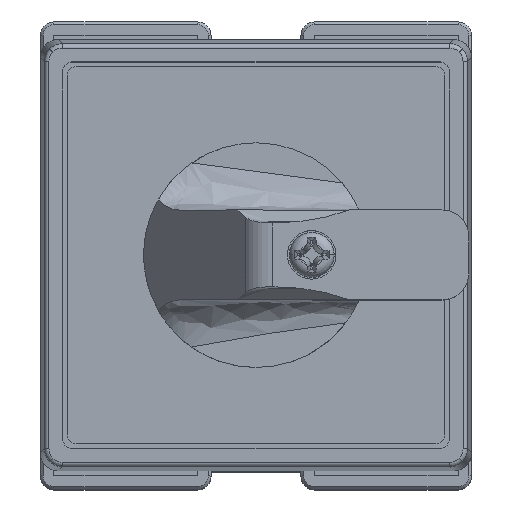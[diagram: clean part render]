
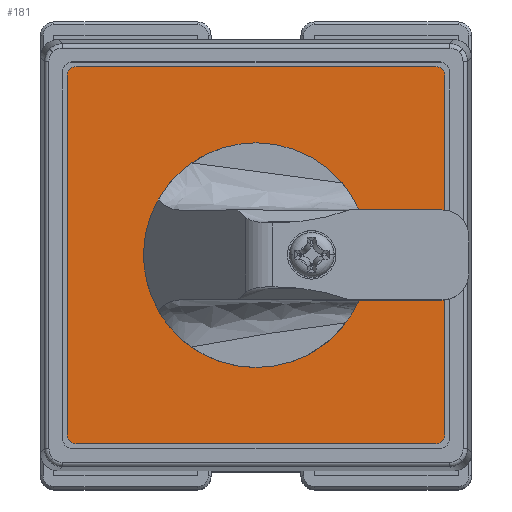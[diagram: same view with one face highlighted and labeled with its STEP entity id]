
A CAD part, top view. The second image highlights one B-rep face of the part: STEP entity #181.
In plain terms, the highlighted planar face has unit normal (0, 0, 1).
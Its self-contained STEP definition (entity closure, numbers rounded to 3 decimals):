
#181 = ADVANCED_FACE ( 'NONE', ( #111747, #148914 ), #33076, .T. ) ;
#2795 = CARTESIAN_POINT ( 'NONE',  ( 6.361, -5.111, -76.982 ) ) ;
#4395 = LINE ( 'NONE', #158297, #125832 ) ;
#9435 = CARTESIAN_POINT ( 'NONE',  ( 26.361, 14.889, -76.982 ) ) ;
#10605 = VERTEX_POINT ( 'NONE', #32470 ) ;
#16602 = CIRCLE ( 'NONE', #135141, 1. ) ;
#17267 = EDGE_CURVE ( 'NONE', #167427, #203070, #136542, .T. ) ;
#18265 = CARTESIAN_POINT ( 'NONE',  ( -14.639, 14.889, -76.982 ) ) ;
#19452 = DIRECTION ( 'NONE',  ( 0., 0., 1. ) ) ;
#20452 = EDGE_CURVE ( 'NONE', #10605, #40214, #255752, .T. ) ;
#21224 = EDGE_CURVE ( 'NONE', #44061, #22255, #158648, .T. ) ;
#22255 = VERTEX_POINT ( 'NONE', #57013 ) ;
#23609 = CARTESIAN_POINT ( 'NONE',  ( 6.361, -15.461, -76.982 ) ) ;
#23677 = DIRECTION ( 'NONE',  ( -1., 0., 0. ) ) ;
#29837 = CARTESIAN_POINT ( 'NONE',  ( 6.361, 5.239, -76.982 ) ) ;
#32470 = CARTESIAN_POINT ( 'NONE',  ( -13.639, -26.111, -76.982 ) ) ;
#33076 = PLANE ( 'NONE',  #162022 ) ;
#34121 = CARTESIAN_POINT ( 'NONE',  ( 26.361, -26.111, -76.982 ) ) ;
#35264 = ORIENTED_EDGE ( 'NONE', *, *, #59825, .T. ) ;
#40214 = VERTEX_POINT ( 'NONE', #34121 ) ;
#43079 = CARTESIAN_POINT ( 'NONE',  ( -13.639, 14.889, -76.982 ) ) ;
#43967 = DIRECTION ( 'NONE',  ( 0., 1., 0. ) ) ;
#44061 = VERTEX_POINT ( 'NONE', #121292 ) ;
#44726 = ORIENTED_EDGE ( 'NONE', *, *, #130319, .T. ) ;
#47830 = DIRECTION ( 'NONE',  ( 0., 0., 1. ) ) ;
#50103 = CIRCLE ( 'NONE', #211093, 10.35 ) ;
#50368 = CIRCLE ( 'NONE', #99094, 1. ) ;
#51347 = LINE ( 'NONE', #82350, #129221 ) ;
#53107 = DIRECTION ( 'NONE',  ( 0., 1., 0. ) ) ;
#55873 = DIRECTION ( 'NONE',  ( 0., 0., 1. ) ) ;
#57013 = CARTESIAN_POINT ( 'NONE',  ( 26.361, 15.889, -76.982 ) ) ;
#59825 = EDGE_CURVE ( 'NONE', #40214, #174378, #16602, .T. ) ;
#62298 = DIRECTION ( 'NONE',  ( 0., 1., 0. ) ) ;
#82350 = CARTESIAN_POINT ( 'NONE',  ( 27.361, -25.111, -76.982 ) ) ;
#84883 = EDGE_CURVE ( 'NONE', #22255, #167427, #193180, .T. ) ;
#93969 = CARTESIAN_POINT ( 'NONE',  ( -14.639, -25.111, -76.982 ) ) ;
#97063 = VERTEX_POINT ( 'NONE', #29837 ) ;
#97074 = ORIENTED_EDGE ( 'NONE', *, *, #17267, .T. ) ;
#98273 = CARTESIAN_POINT ( 'NONE',  ( 27.361, -25.111, -76.982 ) ) ;
#99094 = AXIS2_PLACEMENT_3D ( 'NONE', #177660, #257773, #138452 ) ;
#100079 = AXIS2_PLACEMENT_3D ( 'NONE', #2795, #19452, #181274 ) ;
#111747 = FACE_OUTER_BOUND ( 'NONE', #215409, .T. ) ;
#117612 = CARTESIAN_POINT ( 'NONE',  ( 26.361, -25.111, -76.982 ) ) ;
#119679 = CARTESIAN_POINT ( 'NONE',  ( 6.361, -5.111, -76.982 ) ) ;
#120537 = DIRECTION ( 'NONE',  ( 0., 0., 1. ) ) ;
#121292 = CARTESIAN_POINT ( 'NONE',  ( 27.361, 14.889, -76.982 ) ) ;
#122245 = EDGE_LOOP ( 'NONE', ( #127740, #132771 ) ) ;
#124937 = AXIS2_PLACEMENT_3D ( 'NONE', #43079, #239783, #43967 ) ;
#125832 = VECTOR ( 'NONE', #139052, 1000. ) ;
#127740 = ORIENTED_EDGE ( 'NONE', *, *, #165320, .F. ) ;
#129221 = VECTOR ( 'NONE', #62298, 1000. ) ;
#130319 = EDGE_CURVE ( 'NONE', #203070, #196350, #4395, .T. ) ;
#132481 = CIRCLE ( 'NONE', #100079, 10.35 ) ;
#132771 = ORIENTED_EDGE ( 'NONE', *, *, #183783, .F. ) ;
#135062 = CARTESIAN_POINT ( 'NONE',  ( -13.639, 15.889, -76.982 ) ) ;
#135141 = AXIS2_PLACEMENT_3D ( 'NONE', #117612, #55873, #137612 ) ;
#136542 = CIRCLE ( 'NONE', #124937, 1. ) ;
#137612 = DIRECTION ( 'NONE',  ( 0., -1., 0. ) ) ;
#138452 = DIRECTION ( 'NONE',  ( 0., -1., 0. ) ) ;
#139052 = DIRECTION ( 'NONE',  ( 0., -1., 0. ) ) ;
#147046 = EDGE_CURVE ( 'NONE', #174378, #44061, #51347, .T. ) ;
#148914 = FACE_BOUND ( 'NONE', #122245, .T. ) ;
#150305 = ORIENTED_EDGE ( 'NONE', *, *, #217054, .T. ) ;
#150614 = DIRECTION ( 'NONE',  ( 0., 0., 1. ) ) ;
#152729 = VECTOR ( 'NONE', #23677, 1000. ) ;
#158297 = CARTESIAN_POINT ( 'NONE',  ( -14.639, -25.111, -76.982 ) ) ;
#158648 = CIRCLE ( 'NONE', #213165, 1. ) ;
#162022 = AXIS2_PLACEMENT_3D ( 'NONE', #192343, #150614, #53107 ) ;
#165320 = EDGE_CURVE ( 'NONE', #232668, #97063, #132481, .T. ) ;
#167427 = VERTEX_POINT ( 'NONE', #135062 ) ;
#174378 = VERTEX_POINT ( 'NONE', #98273 ) ;
#177660 = CARTESIAN_POINT ( 'NONE',  ( -13.639, -25.111, -76.982 ) ) ;
#180518 = DIRECTION ( 'NONE',  ( 0., 1., 0. ) ) ;
#181274 = DIRECTION ( 'NONE',  ( 0., 1., 0. ) ) ;
#183783 = EDGE_CURVE ( 'NONE', #97063, #232668, #50103, .T. ) ;
#192343 = CARTESIAN_POINT ( 'NONE',  ( -13.639, 14.889, -76.982 ) ) ;
#192841 = ORIENTED_EDGE ( 'NONE', *, *, #20452, .T. ) ;
#193180 = LINE ( 'NONE', #223929, #152729 ) ;
#196350 = VERTEX_POINT ( 'NONE', #93969 ) ;
#199804 = ORIENTED_EDGE ( 'NONE', *, *, #147046, .T. ) ;
#203070 = VERTEX_POINT ( 'NONE', #18265 ) ;
#208069 = DIRECTION ( 'NONE',  ( 0., -1., 0. ) ) ;
#211093 = AXIS2_PLACEMENT_3D ( 'NONE', #119679, #120537, #180518 ) ;
#211842 = ORIENTED_EDGE ( 'NONE', *, *, #21224, .T. ) ;
#213165 = AXIS2_PLACEMENT_3D ( 'NONE', #9435, #47830, #208069 ) ;
#215409 = EDGE_LOOP ( 'NONE', ( #97074, #44726, #150305, #192841, #35264, #199804, #211842, #239530 ) ) ;
#217054 = EDGE_CURVE ( 'NONE', #196350, #10605, #50368, .T. ) ;
#223929 = CARTESIAN_POINT ( 'NONE',  ( -13.639, 15.889, -76.982 ) ) ;
#228909 = DIRECTION ( 'NONE',  ( 1., 0., 0. ) ) ;
#232668 = VERTEX_POINT ( 'NONE', #23609 ) ;
#239530 = ORIENTED_EDGE ( 'NONE', *, *, #84883, .T. ) ;
#239783 = DIRECTION ( 'NONE',  ( 0., 0., 1. ) ) ;
#249897 = CARTESIAN_POINT ( 'NONE',  ( -13.639, -26.111, -76.982 ) ) ;
#252790 = VECTOR ( 'NONE', #228909, 1000. ) ;
#255752 = LINE ( 'NONE', #249897, #252790 ) ;
#257773 = DIRECTION ( 'NONE',  ( 0., 0., 1. ) ) ;
